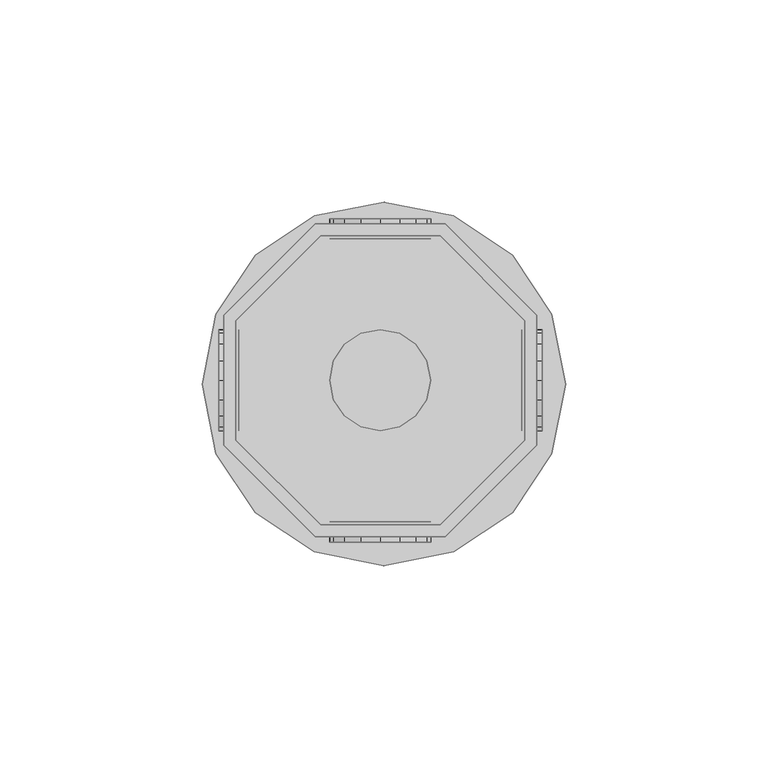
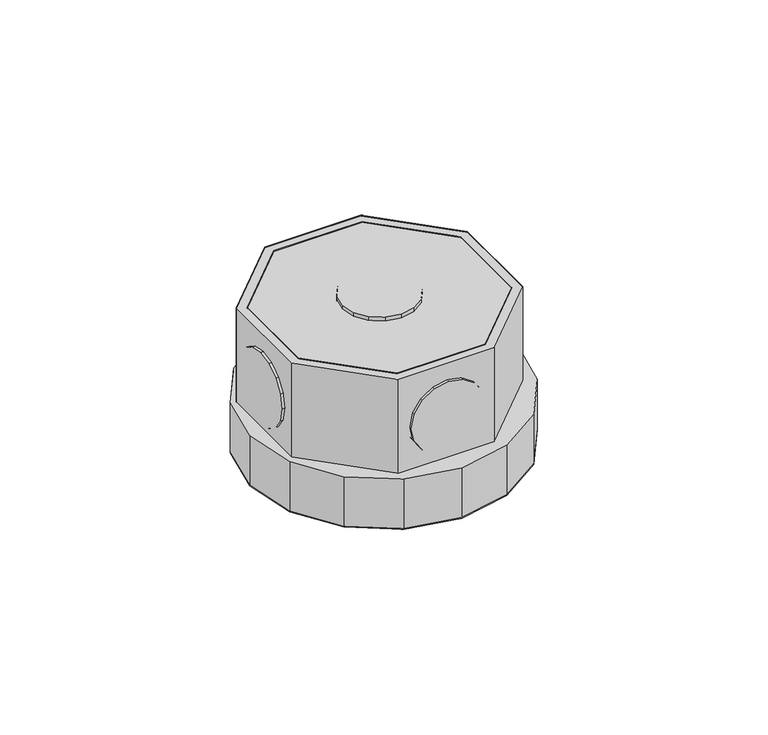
"""IFC4 building model written with IfcOpenShell, lengths in millimetres: light fixture geometry,  213668 :  213668."""

from ifc_helpers import new_model, si_unit, origin, place, context, project, spatial, triangles, source, transform, mapped, element, save


def light_fixture_9a297df8(model_context):
    return source(origin(), model_context, "Body", "Tessellation", [
        triangles([(2614.9999763, 16191.3000732, 2924.5999741), (2585.4000389, 16191.3000732, 2975.400071), (2585.4000389, 16191.3000732, 2924.5999741), (2614.9999763, 16191.3000732, 2975.400071), (2616.1999031, 16116.7999695, 2924.5999741), (2584.1001183, 16116.7999695, 2975.400071), (2584.1001183, 16116.7999695, 2924.5999741), (2616.1999031, 16116.7999695, 2975.400071), (2564.3998672, 16170.3001923, 2975.400071), (2564.3998672, 16170.3001923, 2924.5999741), (2638.899971, 16139.4997467, 2924.5999741), (2638.899971, 16139.4997467, 2975.400071), (2564.3998672, 16140.6996735, 2975.400071), (2564.3998672, 16140.6996735, 2924.5999741), (2638.899971, 16171.6001129, 2924.5999741), (2638.899971, 16171.6001129, 2975.400071), (2585.4000389, 16119.7997864, 2975.400071), (2585.4000389, 16119.7997864, 2924.5999741), (2616.1999031, 16194.2998901, 2924.5999741), (2616.1999031, 16194.2998901, 2975.400071), (2614.9999763, 16119.7997864, 2924.5999741), (2614.9999763, 16119.7997864, 2975.400071), (2584.1001183, 16194.2998901, 2975.400071), (2584.1001183, 16194.2998901, 2924.5999741), (2635.8998634, 16140.6996735, 2924.5999741), (2635.8998634, 16140.6996735, 2975.400071), (2561.4000504, 16171.6001129, 2975.400071), (2561.4000504, 16171.6001129, 2924.5999741), (2561.4000504, 16139.4997467, 2975.400071), (2635.8998634, 16170.3001923, 2975.400071), (2635.8998634, 16170.3001923, 2924.5999741), (2561.4000504, 16139.4997467, 2924.5999741), (2564.3998672, 16140.6996735, 2972.3999634), (2585.4000389, 16119.7997864, 2972.3999634), (2614.9999763, 16119.7997864, 2972.3999634), (2635.8998634, 16140.6996735, 2972.3999634), (2635.8998634, 16170.3001923, 2972.3999634), (2614.9999763, 16191.3000732, 2972.3999634), (2585.4000389, 16191.3000732, 2972.3999634), (2564.3998672, 16170.3001923, 2972.3999634), (2561.4000504, 16171.6001129, 2942.4000504), (2584.1001183, 16194.2998901, 2942.4000504), (2616.1999031, 16194.2998901, 2942.4000504), (2638.899971, 16171.6001129, 2942.4000504), (2638.899971, 16139.4997467, 2942.4000504), (2616.1999031, 16116.7999695, 2942.4000504), (2584.1001183, 16116.7999695, 2942.4000504), (2561.4000504, 16139.4997467, 2942.4000504), (2583.8001366, 16113.1001953, 2942.4000504), (2559.4998756, 16137.3998749, 2942.4000504), (2569.199865, 16122.7996033, 2942.4000504), (2556.1000832, 16154.5999878, 2942.4000504), (2559.4998756, 16171.9000946, 2942.4000504), (2569.199865, 16186.5003662, 2942.4000504), (2583.8001366, 16196.1997742, 2942.4000504), (2601.0999527, 16199.5995667, 2942.4000504), (2618.3000656, 16196.1997742, 2942.4000504), (2642.6000359, 16171.9000946, 2942.4000504), (2632.9000465, 16186.5003662, 2942.4000504), (2601.0999527, 16109.6004089, 2942.4000504), (2618.3000656, 16113.1001953, 2942.4000504), (2632.9000465, 16122.7996033, 2942.4000504), (2642.6000359, 16137.3998749, 2942.4000504), (2646.1001129, 16154.5999878, 2942.4000504), (2559.4998756, 16137.3998749, 2924.5999741), (2583.8001366, 16113.1001953, 2924.5999741), (2569.199865, 16122.7996033, 2924.5999741), (2556.1000832, 16154.5999878, 2924.5999741), (2559.4998756, 16171.9000946, 2924.5999741), (2569.199865, 16186.5003662, 2924.5999741), (2583.8001366, 16196.1997742, 2924.5999741), (2601.0999527, 16199.5995667, 2924.5999741), (2618.3000656, 16196.1997742, 2924.5999741), (2642.6000359, 16171.9000946, 2924.5999741), (2632.9000465, 16186.5003662, 2924.5999741), (2601.0999527, 16109.6004089, 2924.5999741), (2618.3000656, 16113.1001953, 2924.5999741), (2632.9000465, 16122.7996033, 2924.5999741), (2642.6000359, 16137.3998749, 2924.5999741), (2646.1001129, 16154.5999878, 2924.5999741), (2588.6001343, 16195.4998169, 2952.6000092), (2595.4000099, 16195.4998169, 2945.9001274), (2591.2999695, 16195.4998169, 2948.5999626), (2587.6998985, 16195.4998169, 2957.4000069), (2600.2000076, 16195.4998169, 2944.8998978), (2588.6001343, 16195.4998169, 2962.2000046), (2605.0000053, 16195.4998169, 2945.9001274), (2591.2999695, 16195.4998169, 2966.2000511), (2609.0000519, 16195.4998169, 2948.5999626), (2595.4000099, 16195.4998169, 2968.8998863), (2611.6998871, 16195.4998169, 2952.6000092), (2600.2000076, 16195.4998169, 2969.900116), (2612.7001167, 16195.4998169, 2957.4000069), (2605.0000053, 16195.4998169, 2968.8998863), (2611.6998871, 16195.4998169, 2962.2000046), (2609.0000519, 16195.4998169, 2966.2000511), (2595.4000099, 16190.5001221, 2945.9001274), (2588.6001343, 16190.5001221, 2952.6000092), (2591.2999695, 16190.5001221, 2948.5999626), (2600.2000076, 16190.5001221, 2944.8998978), (2587.6998985, 16190.5001221, 2957.4000069), (2605.0000053, 16190.5001221, 2945.9001274), (2588.6001343, 16190.5001221, 2962.2000046), (2609.0000519, 16190.5001221, 2948.5999626), (2591.2999695, 16190.5001221, 2966.2000511), (2595.4000099, 16190.5001221, 2968.8998863), (2611.6998871, 16190.5001221, 2952.6000092), (2600.2000076, 16190.5001221, 2969.900116), (2612.7001167, 16190.5001221, 2957.4000069), (2605.0000053, 16190.5001221, 2968.8998863), (2611.6998871, 16190.5001221, 2962.2000046), (2609.0000519, 16190.5001221, 2966.2000511), (2588.6001343, 16120.4997437, 2952.6000092), (2595.4000099, 16120.4997437, 2945.9001274), (2591.2999695, 16120.4997437, 2948.5999626), (2587.6998985, 16120.4997437, 2957.4000069), (2600.2000076, 16120.4997437, 2944.8998978), (2588.6001343, 16120.4997437, 2962.2000046), (2605.0000053, 16120.4997437, 2945.9001274), (2591.2999695, 16120.4997437, 2966.2000511), (2609.0000519, 16120.4997437, 2948.5999626), (2595.4000099, 16120.4997437, 2968.8998863), (2611.6998871, 16120.4997437, 2952.6000092), (2600.2000076, 16120.4997437, 2969.900116), (2612.7001167, 16120.4997437, 2957.4000069), (2605.0000053, 16120.4997437, 2968.8998863), (2611.6998871, 16120.4997437, 2962.2000046), (2609.0000519, 16120.4997437, 2966.2000511), (2595.4000099, 16115.5000488, 2945.9001274), (2588.6001343, 16115.5000488, 2952.6000092), (2591.2999695, 16115.5000488, 2948.5999626), (2600.2000076, 16115.5000488, 2944.8998978), (2587.6998985, 16115.5000488, 2957.4000069), (2605.0000053, 16115.5000488, 2945.9001274), (2588.6001343, 16115.5000488, 2962.2000046), (2609.0000519, 16115.5000488, 2948.5999626), (2591.2999695, 16115.5000488, 2966.2000511), (2595.4000099, 16115.5000488, 2968.8998863), (2611.6998871, 16115.5000488, 2952.6000092), (2600.2000076, 16115.5000488, 2969.900116), (2612.7001167, 16115.5000488, 2957.4000069), (2605.0000053, 16115.5000488, 2968.8998863), (2611.6998871, 16115.5000488, 2962.2000046), (2609.0000519, 16115.5000488, 2966.2000511), (2565.2001091, 16150.7002258, 2945.9001274), (2565.2001091, 16143.999472, 2952.6000092), (2565.2001091, 16146.70047, 2948.5999626), (2565.2001091, 16155.4999329, 2944.8998978), (2565.2001091, 16142.9995331, 2957.4000069), (2565.2001091, 16160.2996399, 2945.9001274), (2565.2001091, 16143.999472, 2962.2000046), (2565.2001091, 16164.4005524, 2948.5999626), (2565.2001091, 16146.70047, 2966.2000511), (2565.2001091, 16150.7002258, 2968.8998863), (2565.2001091, 16167.1003876, 2952.6000092), (2565.2001091, 16155.4999329, 2969.900116), (2565.2001091, 16168.0003326, 2957.4000069), (2565.2001091, 16160.2996399, 2968.8998863), (2565.2001091, 16167.1003876, 2962.2000046), (2565.2001091, 16164.4005524, 2966.2000511), (2560.2001236, 16143.999472, 2952.6000092), (2560.2001236, 16150.7002258, 2945.9001274), (2560.2001236, 16146.70047, 2948.5999626), (2560.2001236, 16142.9995331, 2957.4000069), (2560.2001236, 16155.4999329, 2944.8998978), (2560.2001236, 16143.999472, 2962.2000046), (2560.2001236, 16160.2996399, 2945.9001274), (2560.2001236, 16146.70047, 2966.2000511), (2560.2001236, 16164.4005524, 2948.5999626), (2560.2001236, 16150.7002258, 2968.8998863), (2560.2001236, 16167.1003876, 2952.6000092), (2560.2001236, 16155.4999329, 2969.900116), (2560.2001236, 16168.0003326, 2957.4000069), (2560.2001236, 16160.2996399, 2968.8998863), (2560.2001236, 16167.1003876, 2962.2000046), (2560.2001236, 16164.4005524, 2966.2000511), (2640.1998917, 16150.7002258, 2945.9001274), (2640.1998917, 16143.999472, 2952.6000092), (2640.1998917, 16146.70047, 2948.5999626), (2640.1998917, 16155.4999329, 2944.8998978), (2640.1998917, 16142.9995331, 2957.4000069), (2640.1998917, 16160.2996399, 2945.9001274), (2640.1998917, 16143.999472, 2962.2000046), (2640.1998917, 16164.4005524, 2948.5999626), (2640.1998917, 16146.70047, 2966.2000511), (2640.1998917, 16150.7002258, 2968.8998863), (2640.1998917, 16167.1003876, 2952.6000092), (2640.1998917, 16155.4999329, 2969.900116), (2640.1998917, 16168.0003326, 2957.4000069), (2640.1998917, 16160.2996399, 2968.8998863), (2640.1998917, 16167.1003876, 2962.2000046), (2640.1998917, 16164.4005524, 2966.2000511), (2635.1999062, 16143.999472, 2952.6000092), (2635.1999062, 16150.7002258, 2945.9001274), (2635.1999062, 16146.70047, 2948.5999626), (2635.1999062, 16142.9995331, 2957.4000069), (2635.1999062, 16155.4999329, 2944.8998978), (2635.1999062, 16143.999472, 2962.2000046), (2635.1999062, 16160.2996399, 2945.9001274), (2635.1999062, 16146.70047, 2966.2000511), (2635.1999062, 16164.4005524, 2948.5999626), (2635.1999062, 16150.7002258, 2968.8998863), (2635.1999062, 16167.1003876, 2952.6000092), (2635.1999062, 16155.4999329, 2969.900116), (2635.1999062, 16168.0003326, 2957.4000069), (2635.1999062, 16160.2996399, 2968.8998863), (2635.1999062, 16167.1003876, 2962.2000046), (2635.1999062, 16164.4005524, 2966.2000511), (2595.4000099, 16143.999472, 2976.9999733), (2588.6001343, 16150.7002258, 2976.9999733), (2591.2999695, 16146.70047, 2976.9999733), (2587.6998985, 16155.4999329, 2976.9999733), (2600.2000076, 16142.9995331, 2976.9999733), (2588.6001343, 16160.2996399, 2976.9999733), (2605.0000053, 16143.999472, 2976.9999733), (2591.2999695, 16164.4005524, 2976.9999733), (2609.0000519, 16146.70047, 2976.9999733), (2595.4000099, 16167.1003876, 2976.9999733), (2611.6998871, 16150.7002258, 2976.9999733), (2600.2000076, 16168.0003326, 2976.9999733), (2612.7001167, 16155.4999329, 2976.9999733), (2605.0000053, 16167.1003876, 2976.9999733), (2611.6998871, 16160.2996399, 2976.9999733), (2609.0000519, 16164.4005524, 2976.9999733), (2588.6001343, 16150.7002258, 2971.9999878), (2595.4000099, 16143.999472, 2971.9999878), (2591.2999695, 16146.70047, 2971.9999878), (2587.6998985, 16155.4999329, 2971.9999878), (2600.2000076, 16142.9995331, 2971.9999878), (2588.6001343, 16160.2996399, 2971.9999878), (2605.0000053, 16143.999472, 2971.9999878), (2591.2999695, 16164.4005524, 2971.9999878), (2609.0000519, 16146.70047, 2971.9999878), (2595.4000099, 16167.1003876, 2971.9999878), (2611.6998871, 16150.7002258, 2971.9999878), (2600.2000076, 16168.0003326, 2971.9999878), (2612.7001167, 16155.4999329, 2971.9999878), (2605.0000053, 16167.1003876, 2971.9999878), (2611.6998871, 16160.2996399, 2971.9999878), (2609.0000519, 16164.4005524, 2971.9999878)], [[1, 2, 3], [2, 1, 4], [5, 6, 7], [6, 5, 8], [3, 9, 10], [9, 3, 2], [11, 8, 5], [8, 11, 12], [10, 13, 14], [13, 10, 9], [15, 12, 11], [12, 15, 16], [14, 17, 18], [17, 14, 13], [19, 16, 15], [16, 19, 20], [17, 21, 18], [21, 17, 22], [23, 19, 24], [19, 23, 20], [22, 25, 21], [25, 22, 26], [27, 24, 28], [24, 27, 23], [6, 13, 29], [29, 13, 27], [27, 13, 9], [27, 9, 23], [23, 9, 2], [23, 2, 4], [23, 4, 20], [20, 4, 30], [8, 17, 6], [6, 17, 13], [17, 8, 22], [12, 22, 8], [22, 12, 26], [30, 26, 12], [16, 30, 12], [20, 30, 16], [30, 1, 31], [1, 30, 4], [6, 32, 7], [32, 6, 29], [32, 14, 7], [28, 14, 32], [14, 28, 10], [24, 10, 28], [10, 24, 3], [1, 3, 24], [19, 1, 24], [31, 1, 19], [7, 18, 5], [14, 18, 7], [5, 18, 21], [5, 21, 11], [11, 21, 25], [11, 25, 31], [11, 31, 15], [15, 31, 19], [26, 31, 25], [31, 26, 30], [29, 28, 32], [28, 29, 27], [17, 33, 34], [33, 17, 13], [35, 17, 34], [17, 35, 22], [36, 22, 35], [22, 36, 26], [37, 26, 36], [26, 37, 30], [38, 30, 37], [30, 38, 4], [2, 38, 39], [38, 2, 4], [17, 9, 13], [9, 17, 22], [9, 22, 2], [2, 22, 26], [2, 26, 4], [4, 26, 30], [13, 40, 33], [40, 13, 9], [40, 34, 33], [35, 34, 40], [35, 40, 39], [35, 39, 36], [36, 39, 38], [36, 38, 37], [9, 39, 40], [39, 9, 2], [24, 41, 28], [41, 24, 42], [19, 42, 24], [42, 19, 43], [44, 19, 15], [19, 44, 43], [45, 15, 11], [15, 45, 44], [46, 11, 5], [11, 46, 45], [47, 5, 7], [5, 47, 46], [32, 47, 7], [47, 32, 48], [28, 48, 32], [48, 28, 41], [49, 50, 51], [48, 50, 49], [50, 48, 52], [41, 52, 48], [52, 41, 53], [53, 41, 54], [42, 54, 41], [54, 42, 55], [55, 42, 43], [55, 43, 56], [56, 43, 57], [57, 43, 44], [57, 44, 58], [57, 58, 59], [47, 49, 60], [49, 47, 48], [47, 60, 46], [61, 46, 60], [46, 61, 62], [46, 62, 45], [45, 62, 63], [44, 45, 63], [44, 63, 64], [44, 64, 58], [65, 66, 67], [66, 65, 32], [68, 32, 65], [32, 68, 28], [28, 68, 69], [70, 28, 69], [28, 70, 24], [71, 24, 70], [19, 24, 71], [19, 71, 72], [73, 19, 72], [19, 73, 15], [74, 15, 73], [74, 73, 75], [76, 66, 7], [32, 7, 66], [5, 76, 7], [76, 5, 77], [77, 5, 78], [11, 78, 5], [78, 11, 79], [79, 11, 15], [79, 15, 80], [80, 15, 74], [57, 75, 73], [75, 57, 59], [56, 73, 72], [73, 56, 57], [55, 72, 71], [72, 55, 56], [54, 71, 70], [71, 54, 55], [53, 70, 69], [70, 53, 54], [52, 69, 68], [69, 52, 53], [50, 68, 65], [68, 50, 52], [51, 65, 67], [65, 51, 50], [66, 51, 67], [51, 66, 49], [76, 49, 66], [49, 76, 60], [77, 60, 76], [60, 77, 61], [78, 61, 77], [61, 78, 62], [79, 62, 78], [62, 79, 63], [80, 63, 79], [63, 80, 64], [75, 58, 74], [58, 75, 59], [74, 64, 80], [64, 74, 58], [81, 82, 83], [82, 81, 84], [85, 82, 84], [85, 84, 86], [87, 85, 86], [87, 86, 88], [87, 88, 89], [89, 88, 90], [89, 90, 91], [91, 90, 92], [91, 92, 93], [93, 92, 94], [93, 94, 95], [95, 94, 96], [97, 98, 99], [98, 97, 100], [101, 98, 100], [101, 100, 102], [103, 101, 102], [103, 102, 104], [103, 104, 105], [105, 104, 106], [106, 104, 107], [106, 107, 108], [108, 107, 109], [108, 109, 110], [110, 109, 111], [110, 111, 112], [87, 104, 102], [104, 87, 89], [85, 102, 100], [102, 85, 87], [82, 100, 97], [100, 82, 85], [83, 97, 99], [97, 83, 82], [98, 83, 99], [83, 98, 81], [101, 81, 98], [81, 101, 84], [103, 84, 101], [84, 103, 86], [105, 86, 103], [86, 105, 88], [106, 88, 105], [88, 106, 90], [108, 90, 106], [90, 108, 92], [110, 92, 108], [92, 110, 94], [112, 94, 110], [94, 112, 96], [95, 112, 111], [112, 95, 96], [93, 111, 109], [111, 93, 95], [89, 107, 104], [107, 89, 91], [91, 109, 107], [109, 91, 93], [113, 114, 115], [114, 113, 116], [117, 114, 116], [117, 116, 118], [119, 117, 118], [119, 118, 120], [119, 120, 121], [121, 120, 122], [121, 122, 123], [123, 122, 124], [123, 124, 125], [125, 124, 126], [125, 126, 127], [127, 126, 128], [129, 130, 131], [130, 129, 132], [133, 130, 132], [133, 132, 134], [135, 133, 134], [135, 134, 136], [135, 136, 137], [137, 136, 138], [138, 136, 139], [138, 139, 140], [140, 139, 141], [140, 141, 142], [142, 141, 143], [142, 143, 144], [119, 136, 134], [136, 119, 121], [117, 134, 132], [134, 117, 119], [114, 132, 129], [132, 114, 117], [115, 129, 131], [129, 115, 114], [130, 115, 131], [115, 130, 113], [133, 113, 130], [113, 133, 116], [135, 116, 133], [116, 135, 118], [137, 118, 135], [118, 137, 120], [138, 120, 137], [120, 138, 122], [140, 122, 138], [122, 140, 124], [142, 124, 140], [124, 142, 126], [144, 126, 142], [126, 144, 128], [127, 144, 143], [144, 127, 128], [125, 143, 141], [143, 125, 127], [121, 139, 136], [139, 121, 123], [123, 141, 139], [141, 123, 125], [145, 146, 147], [146, 145, 148], [149, 146, 148], [149, 148, 150], [151, 149, 150], [151, 150, 152], [151, 152, 153], [153, 152, 154], [154, 152, 155], [154, 155, 156], [156, 155, 157], [156, 157, 158], [158, 157, 159], [158, 159, 160], [161, 162, 163], [162, 161, 164], [165, 162, 164], [165, 164, 166], [167, 165, 166], [167, 166, 168], [169, 167, 168], [169, 168, 170], [169, 170, 171], [171, 170, 172], [171, 172, 173], [173, 172, 174], [173, 174, 175], [175, 174, 176], [158, 176, 174], [176, 158, 160], [156, 174, 172], [174, 156, 158], [154, 172, 170], [172, 154, 156], [153, 170, 168], [170, 153, 154], [151, 168, 166], [168, 151, 153], [149, 166, 164], [166, 149, 151], [146, 164, 161], [164, 146, 149], [147, 161, 163], [161, 147, 146], [162, 147, 163], [147, 162, 145], [165, 145, 162], [145, 165, 148], [167, 148, 165], [148, 167, 150], [169, 150, 167], [150, 169, 152], [171, 152, 169], [152, 171, 155], [173, 155, 171], [155, 173, 157], [176, 159, 175], [159, 176, 160], [175, 157, 173], [157, 175, 159], [177, 178, 179], [178, 177, 180], [181, 178, 180], [181, 180, 182], [183, 181, 182], [183, 182, 184], [183, 184, 185], [185, 184, 186], [186, 184, 187], [186, 187, 188], [188, 187, 189], [188, 189, 190], [190, 189, 191], [190, 191, 192], [193, 194, 195], [194, 193, 196], [197, 194, 196], [197, 196, 198], [199, 197, 198], [199, 198, 200], [201, 199, 200], [201, 200, 202], [201, 202, 203], [203, 202, 204], [203, 204, 205], [205, 204, 206], [205, 206, 207], [207, 206, 208], [190, 208, 206], [208, 190, 192], [188, 206, 204], [206, 188, 190], [186, 204, 202], [204, 186, 188], [185, 202, 200], [202, 185, 186], [183, 200, 198], [200, 183, 185], [181, 198, 196], [198, 181, 183], [178, 196, 193], [196, 178, 181], [179, 193, 195], [193, 179, 178], [194, 179, 195], [179, 194, 177], [197, 177, 194], [177, 197, 180], [199, 180, 197], [180, 199, 182], [201, 182, 199], [182, 201, 184], [203, 184, 201], [184, 203, 187], [205, 187, 203], [187, 205, 189], [208, 191, 207], [191, 208, 192], [207, 189, 205], [189, 207, 191], [209, 210, 211], [212, 210, 209], [212, 209, 213], [214, 212, 213], [214, 213, 215], [216, 214, 215], [216, 215, 217], [216, 217, 218], [218, 217, 219], [218, 219, 220], [220, 219, 221], [220, 221, 222], [222, 221, 223], [222, 223, 224], [225, 226, 227], [226, 225, 228], [229, 226, 228], [229, 228, 230], [231, 229, 230], [231, 230, 232], [231, 232, 233], [233, 232, 234], [233, 234, 235], [235, 234, 236], [235, 236, 237], [237, 236, 238], [237, 238, 239], [239, 238, 240], [222, 240, 238], [240, 222, 224], [220, 238, 236], [238, 220, 222], [218, 236, 234], [236, 218, 220], [216, 234, 232], [234, 216, 218], [214, 232, 230], [232, 214, 216], [212, 230, 228], [230, 212, 214], [210, 228, 225], [228, 210, 212], [211, 225, 227], [225, 211, 210], [226, 211, 227], [211, 226, 209], [229, 209, 226], [209, 229, 213], [231, 213, 229], [213, 231, 215], [233, 215, 231], [215, 233, 217], [235, 217, 233], [217, 235, 219], [237, 219, 235], [219, 237, 221], [240, 223, 239], [223, 240, 224], [239, 221, 237], [221, 239, 223]], closed=False),
    ])


if __name__ == "__main__":
    model = new_model("IFC4")
    model_context = context("Model", 3, world=origin())
    ifc_project = project(units=[si_unit("LENGTHUNIT", "METRE", prefix="MILLI")], contexts=[model_context])
    site = spatial("IfcSite", under=ifc_project)
    building = spatial("IfcBuilding", under=site)
    placement = place(None, origin())
    light_fixture_shape = light_fixture_9a297df8(model_context)
    element("IfcLightFixture", 1, ObjectType=" 213668 :  213668", at=placement, inside=building, context=model_context, shape_type="MappedRepresentation", body=[
        mapped(light_fixture_shape, transform((0.0, 0.0, 0.0), x_axis=(1.0, 0.0, 0.0), y_axis=(0.0, 1.0, 0.0), z_axis=(0.0, 0.0, 1.0))),
    ])
    save(model, "model.ifc")
